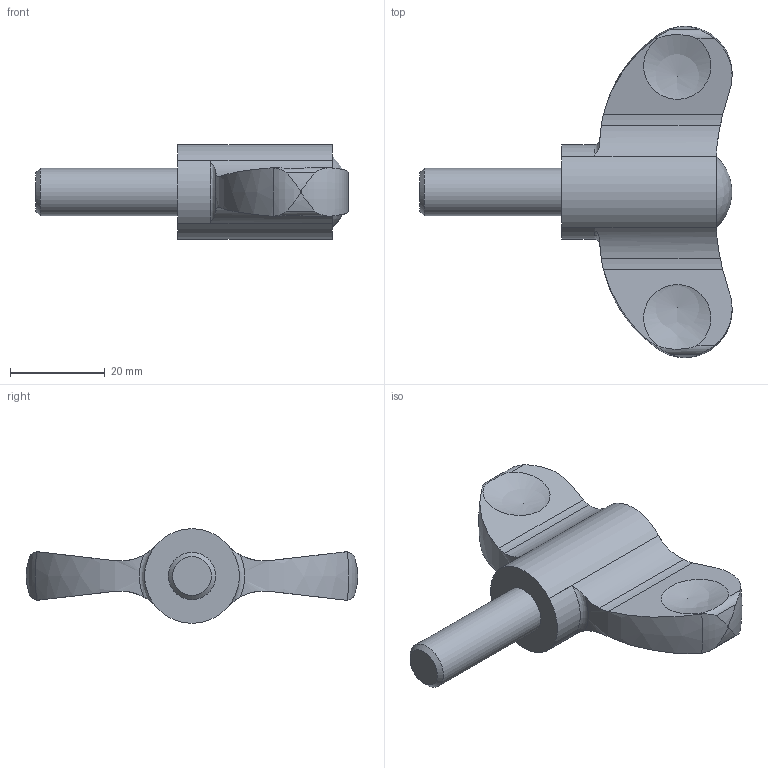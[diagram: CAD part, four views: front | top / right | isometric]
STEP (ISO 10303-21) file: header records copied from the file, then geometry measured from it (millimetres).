
FILE_DESCRIPTION( ( 'STEP AP203' ), '1' );
FILE_NAME( 'C:/Temp/Ganter_Step_05_03_2020/data/2_2/gn_633/Wing nut GN 633-70-M10-30-DGR.stp', '2020-03-05T12:21:18', ( 'License CC BY-ND 4.0' ), ( 'CADENAS' ), ' ', 'PARTsolutions', ' ' );
FILE_SCHEMA( ( 'CONFIG_CONTROL_DESIGN' ) );
Length unit declared in the file: millimetre
Products named in the file (1): _Wing nut GN 633-70-M10-30-DGR
Bounding box: 66 x 70 x 20 mm (x, y, z)
Volume: 21308.5 mm3; surface area: 6525 mm2
Topology: 1 solids, 1 shells, 46 faces, 133 edges, 89 vertices
Faces by surface type: cylinder 25, plane 7, sphere 5, torus 4, bspline 4, cone 1
Full cylindrical faces by diameter (mm): 10 x1
Entity records: 2042 total; most frequent: CARTESIAN_POINT 953, ORIENTED_EDGE 236, DIRECTION 180, EDGE_CURVE 118, VERTEX_POINT 84, AXIS2_PLACEMENT_3D 75, B_SPLINE_CURVE_WITH_KNOTS 56, EDGE_LOOP 52
